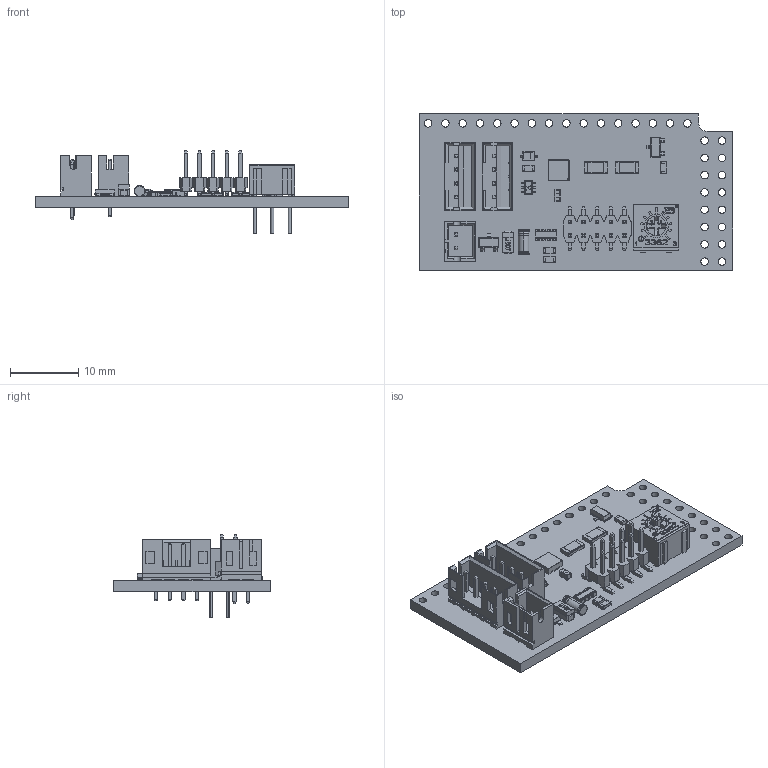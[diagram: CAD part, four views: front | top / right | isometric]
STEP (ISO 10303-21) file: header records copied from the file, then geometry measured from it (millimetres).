
FILE_DESCRIPTION(('Open CASCADE Model'),'2;1');
FILE_NAME('Open CASCADE Shape Model','2026-03-20T12:25:07',('Author'),( 'Open CASCADE'),'Open CASCADE STEP processor 6.8','Open CASCADE 6.8' ,'Unknown');
FILE_SCHEMA(('AUTOMOTIVE_DESIGN { 1 0 10303 214 1 1 1 1 }'));
Length unit declared in the file: millimetre
Products named in the file (42): PCB; Board; J6; CH71102M100-0P; 12P_10; SMT_PIN-PC; R2; MCR18; C1; GRM188; C2; TCA1A106M8R; D1; PDZ12B_115; D2; PMLL4148L; Q1; FDN306P; Q2; Q3; SOT363-2; SOT363-2_Lower_body; SOT363-2_Lead; SOT363-2_Upper_body; R6; MCR03; R8; U1; PCA9554CBS; R9; 3362P001XXX0A; R3; YC164-JR-1310KL; Resistor_Array_YC_AF_xxx_YC164-FR-07180KL; R5; R4; R1; J5; 112504ST; J3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
Assembly tree (61 placements, depth 4):
  PCB
    Board
    J6
      CH71102M100-0P
        12P_10
        SMT_PIN-PC  x10
    R2
      MCR18
    C1
      GRM188
    C2
      TCA1A106M8R
    D1
      PDZ12B_115
    D2
      PMLL4148L
    Q1
      FDN306P
    Q2
      FDN306P
    Q3
      SOT363-2
        SOT363-2_Lower_body
        SOT363-2_Lead  x6
        SOT363-2_Upper_body
    R6
      MCR03
    R8
      MCR03
    U1
      PCA9554CBS
    R9
      3362P001XXX0A
    R3
      YC164-JR-1310KL
        Resistor_Array_YC_AF_xxx_YC164-FR-07180KL
    R5
      MCR03
    R4
      MCR03
    R1
      MCR18
    J5
      112504ST
    J3
      112504ST
    J1
      B2B-PH-K-S
Bounding box: 46 x 23 x 12.24 mm (x, y, z)
Volume: 2288.1 mm3; surface area: 4486.4 mm2
Topology: 72 solids, 72 shells, 2566 faces, 6575 edges, 4165 vertices
Faces by surface type: plane 1962, cylinder 449, torus 89, sphere 46, bspline 14, cone 6
Full cylindrical faces by diameter (mm): 0.7 x3, 0.85 x10, 1.1 x32
Entity records: 64185 total; most frequent: CARTESIAN_POINT 11287, ORIENTED_EDGE 9808, DIRECTION 9497, EDGE_CURVE 4904, LINE 4075, VECTOR 4075, VERTEX_POINT 3145, AXIS2_PLACEMENT_3D 2711
